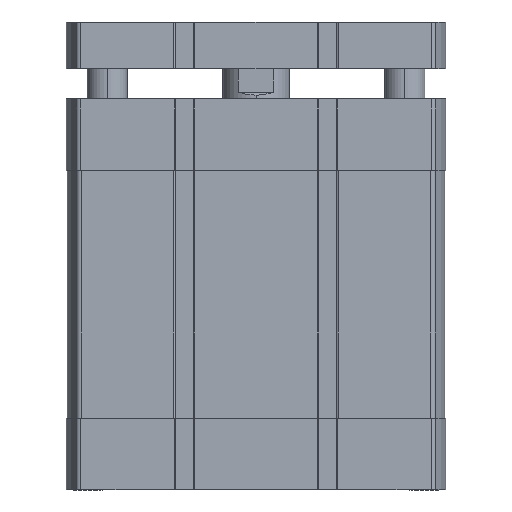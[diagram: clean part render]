
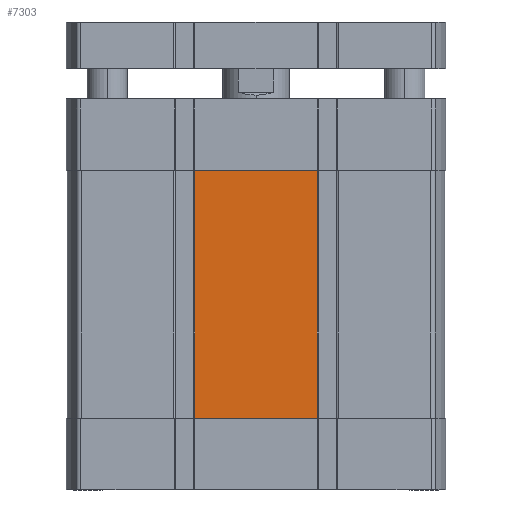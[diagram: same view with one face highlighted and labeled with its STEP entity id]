
A CAD part, front view. The second image highlights one B-rep face of the part: STEP entity #7303.
In plain terms, the highlighted planar face has unit normal (0, -1, 0) as drawn and (-1, 0, 0) by its records, which use the part's own axes.
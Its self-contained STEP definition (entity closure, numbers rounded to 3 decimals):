
#1013 = CARTESIAN_POINT ( 'NONE',  ( -56.5, 18.345, -21.5 ) ) ;
#1044 = EDGE_CURVE ( 'NONE', #16466, #11526, #15863, .T. ) ;
#1659 = CARTESIAN_POINT ( 'NONE',  ( -56.5, 18.345, -95.5 ) ) ;
#2459 = DIRECTION ( 'NONE',  ( -1., 0., 0. ) ) ;
#3520 = EDGE_LOOP ( 'NONE', ( #10372, #18258, #7731, #23840 ) ) ;
#5543 = DIRECTION ( 'NONE',  ( 0., 0., 1. ) ) ;
#6038 = CARTESIAN_POINT ( 'NONE',  ( -56.5, -18.545, -21.5 ) ) ;
#6242 = CARTESIAN_POINT ( 'NONE',  ( -56.5, -18.345, -95.5 ) ) ;
#6495 = DIRECTION ( 'NONE',  ( 0., 0., -1. ) ) ;
#7298 = AXIS2_PLACEMENT_3D ( 'NONE', #14425, #2459, #16428 ) ;
#7303 = ADVANCED_FACE ( 'NONE', ( #8021 ), #14351, .T. ) ;
#7731 = ORIENTED_EDGE ( 'NONE', *, *, #19024, .T. ) ;
#8021 = FACE_OUTER_BOUND ( 'NONE', #3520, .T. ) ;
#8045 = EDGE_CURVE ( 'NONE', #11526, #18375, #8301, .T. ) ;
#8301 = LINE ( 'NONE', #25162, #23413 ) ;
#8732 = VECTOR ( 'NONE', #24421, 1000. ) ;
#9467 = EDGE_CURVE ( 'NONE', #13823, #16466, #18433, .T. ) ;
#10334 = CARTESIAN_POINT ( 'NONE',  ( -56.5, 18.345, -95.5 ) ) ;
#10372 = ORIENTED_EDGE ( 'NONE', *, *, #1044, .T. ) ;
#11526 = VERTEX_POINT ( 'NONE', #6242 ) ;
#12461 = CARTESIAN_POINT ( 'NONE',  ( -56.5, 18.345, -95.5 ) ) ;
#13823 = VERTEX_POINT ( 'NONE', #1013 ) ;
#14351 = PLANE ( 'NONE',  #7298 ) ;
#14425 = CARTESIAN_POINT ( 'NONE',  ( -56.5, 18.345, -95.5 ) ) ;
#15863 = LINE ( 'NONE', #1659, #8732 ) ;
#16428 = DIRECTION ( 'NONE',  ( 0., 0., 1. ) ) ;
#16466 = VERTEX_POINT ( 'NONE', #12461 ) ;
#17153 = LINE ( 'NONE', #6038, #22997 ) ;
#18258 = ORIENTED_EDGE ( 'NONE', *, *, #8045, .T. ) ;
#18375 = VERTEX_POINT ( 'NONE', #23710 ) ;
#18433 = LINE ( 'NONE', #10334, #22398 ) ;
#19024 = EDGE_CURVE ( 'NONE', #18375, #13823, #17153, .T. ) ;
#19953 = DIRECTION ( 'NONE',  ( 0., 1., 0. ) ) ;
#22398 = VECTOR ( 'NONE', #6495, 1000. ) ;
#22997 = VECTOR ( 'NONE', #19953, 1000. ) ;
#23413 = VECTOR ( 'NONE', #5543, 1000. ) ;
#23710 = CARTESIAN_POINT ( 'NONE',  ( -56.5, -18.345, -21.5 ) ) ;
#23840 = ORIENTED_EDGE ( 'NONE', *, *, #9467, .T. ) ;
#24421 = DIRECTION ( 'NONE',  ( 0., -1., 0. ) ) ;
#25162 = CARTESIAN_POINT ( 'NONE',  ( -56.5, -18.345, -95.5 ) ) ;
